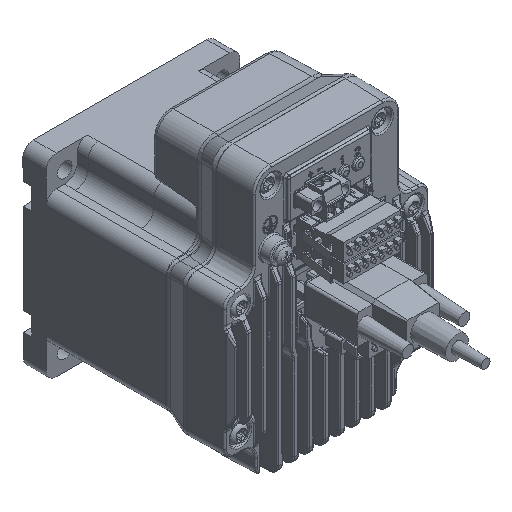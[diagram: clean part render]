
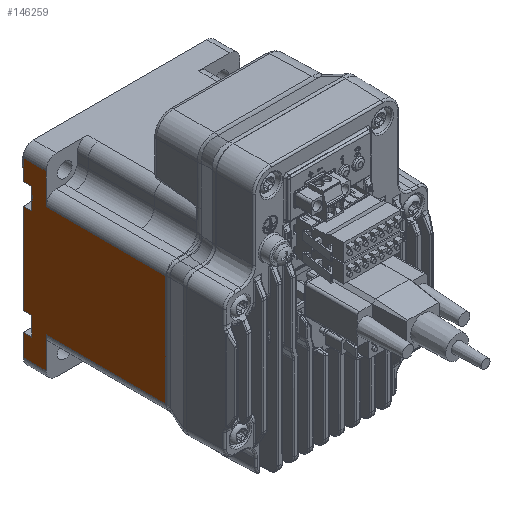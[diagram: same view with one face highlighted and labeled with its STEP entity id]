
A CAD part, isometric view. The second image highlights one B-rep face of the part: STEP entity #146259.
In plain terms, the highlighted planar face has unit normal (-1, 0, 0).
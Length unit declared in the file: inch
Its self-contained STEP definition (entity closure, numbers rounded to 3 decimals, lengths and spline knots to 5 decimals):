
#142516=CARTESIAN_POINT('',(-1.695,3.61235,-1.131));
#142517=VERTEX_POINT('',#142516);
#142524=CARTESIAN_POINT('',(-1.695,3.46635,-1.131));
#142525=VERTEX_POINT('',#142524);
#142526=CARTESIAN_POINT('',(-1.695,3.66235,-1.131));
#142527=DIRECTION('',(0.,-1.,0.));
#142528=VECTOR('',#142527,1.);
#142529=LINE('',#142526,#142528);
#142530=EDGE_CURVE('',#142517,#142525,#142529,.T.);
#142564=CARTESIAN_POINT('',(-1.695,3.46635,-0.801));
#142565=VERTEX_POINT('',#142564);
#142566=CARTESIAN_POINT('',(-1.695,3.46635,0.9635));
#142567=DIRECTION('',(0.,0.,-1.));
#142568=VECTOR('',#142567,1.);
#142569=LINE('',#142566,#142568);
#142570=EDGE_CURVE('',#142565,#142525,#142569,.T.);
#143130=CARTESIAN_POINT('',(-1.695,3.61235,1.15359));
#143131=VERTEX_POINT('',#143130);
#143132=CARTESIAN_POINT('',(-1.695,3.46635,1.15104));
#143133=VERTEX_POINT('',#143132);
#143134=CARTESIAN_POINT('',(-1.695,3.53313,1.15221));
#143135=DIRECTION('',(0.,-1.,-0.017));
#143136=VECTOR('',#143135,1.);
#143137=LINE('',#143134,#143136);
#143138=EDGE_CURVE('',#143131,#143133,#143137,.T.);
#143169=CARTESIAN_POINT('',(-1.695,3.46635,0.78096));
#143170=VERTEX_POINT('',#143169);
#143171=CARTESIAN_POINT('',(-1.695,3.61235,0.77841));
#143172=VERTEX_POINT('',#143171);
#143173=CARTESIAN_POINT('',(-1.695,3.56693,0.7792));
#143174=DIRECTION('',(0.,1.,-0.017));
#143175=VECTOR('',#143174,1.);
#143176=LINE('',#143173,#143175);
#143177=EDGE_CURVE('',#143170,#143172,#143176,.T.);
#145037=CARTESIAN_POINT('',(-1.695,3.21235,0.971));
#145038=VERTEX_POINT('',#145037);
#145046=CARTESIAN_POINT('',(-1.69508,1.11882,0.97109));
#145047=VERTEX_POINT('',#145046);
#145048=CARTESIAN_POINT('',(-1.695,1.22207,0.971));
#145049=DIRECTION('',(0.,1.,0.));
#145050=VECTOR('',#145049,39.37008);
#145051=LINE('',#145048,#145050);
#145052=EDGE_CURVE('',#145047,#145038,#145051,.T.);
#145078=CARTESIAN_POINT('',(-1.695,3.21235,-0.971));
#145079=VERTEX_POINT('',#145078);
#145097=CARTESIAN_POINT('',(-1.69508,1.11882,-0.97109));
#145098=VERTEX_POINT('',#145097);
#145106=CARTESIAN_POINT('',(-1.695,3.65135,-0.971));
#145107=DIRECTION('',(0.,-1.,0.));
#145108=VECTOR('',#145107,39.37008);
#145109=LINE('',#145106,#145108);
#145110=EDGE_CURVE('',#145079,#145098,#145109,.T.);
#145352=CARTESIAN_POINT('',(-1.695,3.61235,-1.515));
#145353=VERTEX_POINT('',#145352);
#145362=CARTESIAN_POINT('',(-1.695,3.21235,-1.515));
#145363=VERTEX_POINT('',#145362);
#145371=CARTESIAN_POINT('',(-1.695,3.25135,-1.515));
#145372=DIRECTION('',(0.,1.,0.));
#145373=VECTOR('',#145372,39.37008);
#145374=LINE('',#145371,#145373);
#145375=EDGE_CURVE('',#145363,#145353,#145374,.T.);
#145393=CARTESIAN_POINT('',(-1.695,3.61235,1.515));
#145394=VERTEX_POINT('',#145393);
#145402=CARTESIAN_POINT('',(-1.695,3.21235,1.515));
#145403=VERTEX_POINT('',#145402);
#145404=CARTESIAN_POINT('',(-1.695,3.25135,1.515));
#145405=DIRECTION('',(0.,1.,0.));
#145406=VECTOR('',#145405,39.37008);
#145407=LINE('',#145404,#145406);
#145408=EDGE_CURVE('',#145403,#145394,#145407,.T.);
#146031=CARTESIAN_POINT('',(-1.695,3.21235,-0.4855));
#146032=DIRECTION('',(0.,0.,-1.));
#146033=VECTOR('',#146032,1.);
#146034=LINE('',#146031,#146033);
#146035=EDGE_CURVE('',#145079,#145363,#146034,.T.);
#146102=CARTESIAN_POINT('',(-1.695,3.21235,-0.4855));
#146103=DIRECTION('',(0.,0.,-1.));
#146104=VECTOR('',#146103,1.);
#146105=LINE('',#146102,#146104);
#146106=EDGE_CURVE('',#145403,#145038,#146105,.T.);
#146133=CARTESIAN_POINT('',(-1.695,3.61235,-0.4855));
#146134=DIRECTION('',(0.,0.,-1.));
#146135=VECTOR('',#146134,1.);
#146136=LINE('',#146133,#146135);
#146137=EDGE_CURVE('',#145394,#143131,#146136,.T.);
#146159=CARTESIAN_POINT('',(-1.695,3.61235,-0.4855));
#146160=DIRECTION('',(0.,0.,-1.));
#146161=VECTOR('',#146160,1.);
#146162=LINE('',#146159,#146161);
#146163=EDGE_CURVE('',#142517,#145353,#146162,.T.);
#146175=CARTESIAN_POINT('',(-1.695,3.61235,-0.801));
#146176=VERTEX_POINT('',#146175);
#146183=CARTESIAN_POINT('',(-1.695,3.61235,-0.4855));
#146184=DIRECTION('',(0.,0.,-1.));
#146185=VECTOR('',#146184,1.);
#146186=LINE('',#146183,#146185);
#146187=EDGE_CURVE('',#143172,#146176,#146186,.T.);
#146221=ORIENTED_EDGE('',*,*,#143177,.T.);
#146222=ORIENTED_EDGE('',*,*,#146187,.T.);
#146223=CARTESIAN_POINT('',(-1.695,3.66235,-0.801));
#146224=DIRECTION('',(0.,1.,0.));
#146225=VECTOR('',#146224,1.);
#146226=LINE('',#146223,#146225);
#146227=EDGE_CURVE('',#142565,#146176,#146226,.T.);
#146228=ORIENTED_EDGE('',*,*,#146227,.F.);
#146229=ORIENTED_EDGE('',*,*,#142570,.T.);
#146230=ORIENTED_EDGE('',*,*,#142530,.F.);
#146231=ORIENTED_EDGE('',*,*,#146163,.T.);
#146232=ORIENTED_EDGE('',*,*,#145375,.F.);
#146233=ORIENTED_EDGE('',*,*,#146035,.F.);
#146234=ORIENTED_EDGE('',*,*,#145110,.T.);
#146235=CARTESIAN_POINT('',(-1.695,1.12339,-0.4855));
#146236=DIRECTION('',(0.,0.,-1.));
#146237=VECTOR('',#146236,1.);
#146238=LINE('',#146235,#146237);
#146239=EDGE_CURVE('',#145047,#145098,#146238,.T.);
#146240=ORIENTED_EDGE('',*,*,#146239,.F.);
#146241=ORIENTED_EDGE('',*,*,#145052,.T.);
#146242=ORIENTED_EDGE('',*,*,#146106,.F.);
#146243=ORIENTED_EDGE('',*,*,#145408,.T.);
#146244=ORIENTED_EDGE('',*,*,#146137,.T.);
#146245=ORIENTED_EDGE('',*,*,#143138,.T.);
#146246=CARTESIAN_POINT('',(-1.695,3.46635,1.84699));
#146247=DIRECTION('',(0.,0.,-1.));
#146248=VECTOR('',#146247,1.);
#146249=LINE('',#146246,#146248);
#146250=EDGE_CURVE('',#143133,#143170,#146249,.T.);
#146251=ORIENTED_EDGE('',*,*,#146250,.T.);
#146252=EDGE_LOOP('',(#146221,#146222,#146228,#146229,#146230,#146231,#146232,#146233,#146234,#146240,#146241,#146242,#146243,#146244,#146245,#146251));
#146253=FACE_OUTER_BOUND('',#146252,.T.);
#146254=CARTESIAN_POINT('',(-1.695,3.65135,-0.971));
#146255=DIRECTION('',(-1.,0.,0.));
#146256=DIRECTION('',(0.,0.,-1.));
#146257=AXIS2_PLACEMENT_3D('',#146254,#146255,#146256);
#146258=PLANE('',#146257);
#146259=ADVANCED_FACE('',(#146253),#146258,.T.);
